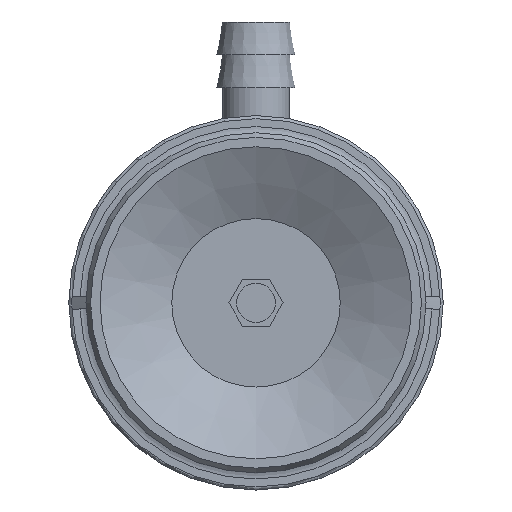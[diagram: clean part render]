
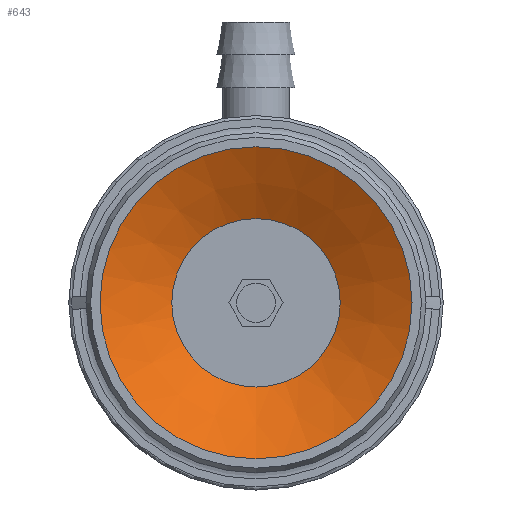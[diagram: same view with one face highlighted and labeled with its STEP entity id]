
A CAD part, front view. The second image highlights one B-rep face of the part: STEP entity #643.
In plain terms, the highlighted conical face has half-angle 61.631 degrees and reference radius 5.4 mm.
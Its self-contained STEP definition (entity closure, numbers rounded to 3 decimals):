
#643=ADVANCED_FACE('',(#982,#983),#984,.F.);
#982=FACE_BOUND('',#1353,.T.);
#983=FACE_OUTER_BOUND('',#1354,.T.);
#984=CONICAL_SURFACE('',#1355,5.4,1.076);
#1353=EDGE_LOOP('',(#2280));
#1354=EDGE_LOOP('',(#2281));
#1355=AXIS2_PLACEMENT_3D('',#2282,#2283,#2284);
#2280=ORIENTED_EDGE('',*,*,#2611,.F.);
#2281=ORIENTED_EDGE('',*,*,#2648,.T.);
#2282=CARTESIAN_POINT('',(0.0,2.484,0.0));
#2283=DIRECTION('',(-0.0,-1.0,0.));
#2284=DIRECTION('',(0.0,0.,-1.0));
#2611=EDGE_CURVE('',#3028,#3028,#3029,.T.);
#2648=EDGE_CURVE('',#3092,#3092,#3093,.T.);
#3028=VERTEX_POINT('',#3936);
#3029=CIRCLE('',#3937,5.4);
#3092=VERTEX_POINT('',#4012);
#3093=CIRCLE('',#4013,10.0);
#3936=CARTESIAN_POINT('',(0.0,2.484,-5.4));
#3937=AXIS2_PLACEMENT_3D('',#4401,#4402,#4403);
#4012=CARTESIAN_POINT('',(0.0,0.,-10.0));
#4013=AXIS2_PLACEMENT_3D('',#4488,#4489,#4490);
#4401=CARTESIAN_POINT('',(0.0,2.484,0.0));
#4402=DIRECTION('',(0.0,-1.0,0.));
#4403=DIRECTION('',(0.0,0.,-1.0));
#4488=CARTESIAN_POINT('',(0.0,0.0,0.0));
#4489=DIRECTION('',(0.0,-1.0,0.));
#4490=DIRECTION('',(0.0,0.,-1.0));
